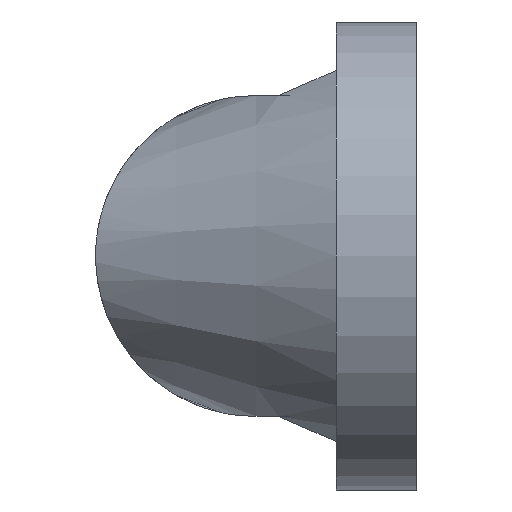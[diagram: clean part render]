
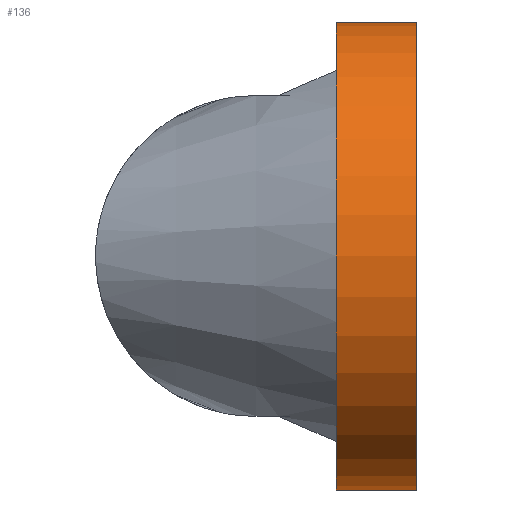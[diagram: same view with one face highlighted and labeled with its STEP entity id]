
A CAD part, left-side view. The second image highlights one B-rep face of the part: STEP entity #136.
In plain terms, the highlighted cylindrical face has radius 8.75 mm (diameter 17.5 mm), a partial arc.
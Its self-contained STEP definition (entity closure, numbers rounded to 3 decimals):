
#12 = EDGE_CURVE ( 'NONE', #523, #474, #343, .T. ) ;
#15 = CIRCLE ( 'NONE', #288, 8.75 ) ;
#61 = VERTEX_POINT ( 'NONE', #581 ) ;
#68 = CARTESIAN_POINT ( 'NONE',  ( -23., 0., 8.75 ) ) ;
#90 = EDGE_CURVE ( 'NONE', #636, #61, #583, .T. ) ;
#114 = CIRCLE ( 'NONE', #400, 8.75 ) ;
#136 = ADVANCED_FACE ( 'NONE', ( #151 ), #735, .T. ) ;
#151 = FACE_OUTER_BOUND ( 'NONE', #335, .T. ) ;
#194 = ORIENTED_EDGE ( 'NONE', *, *, #90, .T. ) ;
#227 = DIRECTION ( 'NONE',  ( 0., 0., 1. ) ) ;
#258 = CARTESIAN_POINT ( 'NONE',  ( -23., 3., 8.75 ) ) ;
#263 = CARTESIAN_POINT ( 'NONE',  ( -23., 3., 0. ) ) ;
#288 = AXIS2_PLACEMENT_3D ( 'NONE', #756, #411, #664 ) ;
#294 = CARTESIAN_POINT ( 'NONE',  ( -23., 3., 8.75 ) ) ;
#332 = DIRECTION ( 'NONE',  ( 0., -1., 0. ) ) ;
#335 = EDGE_LOOP ( 'NONE', ( #530, #392, #449, #194 ) ) ;
#343 = LINE ( 'NONE', #294, #351 ) ;
#351 = VECTOR ( 'NONE', #637, 1000. ) ;
#392 = ORIENTED_EDGE ( 'NONE', *, *, #12, .F. ) ;
#400 = AXIS2_PLACEMENT_3D ( 'NONE', #515, #580, #227 ) ;
#411 = DIRECTION ( 'NONE',  ( 0., -1., 0. ) ) ;
#449 = ORIENTED_EDGE ( 'NONE', *, *, #653, .T. ) ;
#474 = VERTEX_POINT ( 'NONE', #68 ) ;
#484 = DIRECTION ( 'NONE',  ( 0., 0., -1. ) ) ;
#515 = CARTESIAN_POINT ( 'NONE',  ( -23., 3., 0. ) ) ;
#520 = CARTESIAN_POINT ( 'NONE',  ( -23., 3., -8.75 ) ) ;
#523 = VERTEX_POINT ( 'NONE', #258 ) ;
#530 = ORIENTED_EDGE ( 'NONE', *, *, #638, .F. ) ;
#580 = DIRECTION ( 'NONE',  ( 0., -1., 0. ) ) ;
#581 = CARTESIAN_POINT ( 'NONE',  ( -23., 0., -8.75 ) ) ;
#583 = LINE ( 'NONE', #598, #666 ) ;
#589 = AXIS2_PLACEMENT_3D ( 'NONE', #263, #332, #484 ) ;
#598 = CARTESIAN_POINT ( 'NONE',  ( -23., 3., -8.75 ) ) ;
#606 = DIRECTION ( 'NONE',  ( 0., -1., 0. ) ) ;
#636 = VERTEX_POINT ( 'NONE', #520 ) ;
#637 = DIRECTION ( 'NONE',  ( 0., -1., 0. ) ) ;
#638 = EDGE_CURVE ( 'NONE', #474, #61, #15, .T. ) ;
#653 = EDGE_CURVE ( 'NONE', #523, #636, #114, .T. ) ;
#664 = DIRECTION ( 'NONE',  ( 0., 0., 1. ) ) ;
#666 = VECTOR ( 'NONE', #606, 1000. ) ;
#735 = CYLINDRICAL_SURFACE ( 'NONE', #589, 8.75 ) ;
#756 = CARTESIAN_POINT ( 'NONE',  ( -23., 0., 0. ) ) ;
